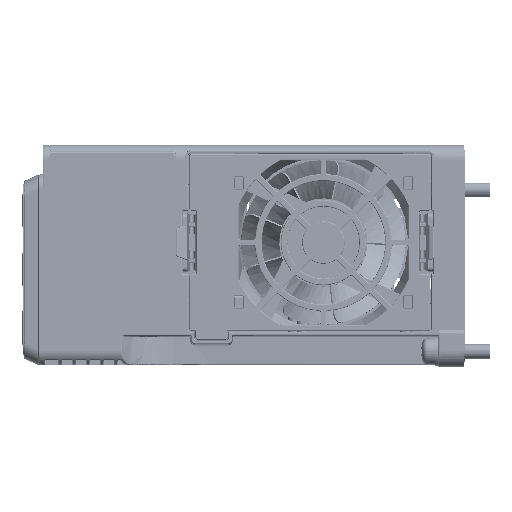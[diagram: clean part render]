
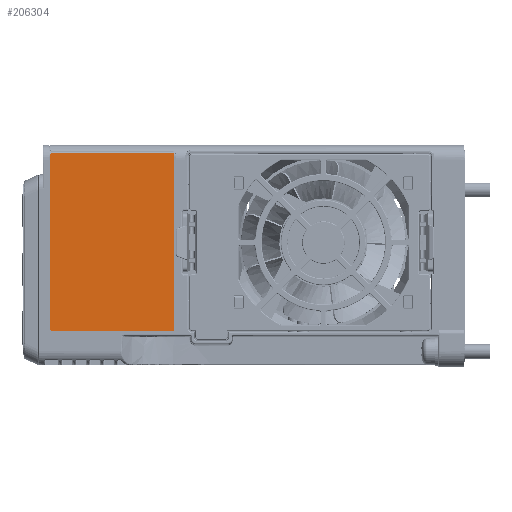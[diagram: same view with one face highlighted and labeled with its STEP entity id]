
A CAD part, left-side view. The second image highlights one B-rep face of the part: STEP entity #206304.
In plain terms, the highlighted planar face has unit normal (-1, 0, 0).
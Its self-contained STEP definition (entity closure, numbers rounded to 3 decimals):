
#12292=CIRCLE('',#222339,0.5);
#12293=CIRCLE('',#222341,0.5);
#12294=CIRCLE('',#222342,0.5);
#12295=CIRCLE('',#222343,0.5);
#23680=FACE_OUTER_BOUND('',#35821,.T.);
#35821=EDGE_LOOP('',(#165460,#165461,#165462,#165463,#165464,#165465,#165466,
#165467));
#53525=LINE('',#391138,#75606);
#53528=LINE('',#391147,#75609);
#53529=LINE('',#391151,#75610);
#53530=LINE('',#391154,#75611);
#75606=VECTOR('',#257959,59.535);
#75609=VECTOR('',#257968,59.535);
#75610=VECTOR('',#257971,41.2);
#75611=VECTOR('',#257974,41.2);
#96714=VERTEX_POINT('',#391135);
#96715=VERTEX_POINT('',#391137);
#96716=VERTEX_POINT('',#391141);
#96717=VERTEX_POINT('',#391145);
#96718=VERTEX_POINT('',#391146);
#96719=VERTEX_POINT('',#391148);
#96720=VERTEX_POINT('',#391150);
#96721=VERTEX_POINT('',#391153);
#121138=EDGE_CURVE('',#96714,#96715,#53525,.T.);
#121141=EDGE_CURVE('',#96716,#96714,#12292,.T.);
#121142=EDGE_CURVE('',#96717,#96718,#53528,.T.);
#121143=EDGE_CURVE('',#96719,#96717,#12293,.T.);
#121144=EDGE_CURVE('',#96720,#96719,#53529,.T.);
#121145=EDGE_CURVE('',#96715,#96720,#12294,.T.);
#121146=EDGE_CURVE('',#96721,#96716,#53530,.T.);
#121147=EDGE_CURVE('',#96718,#96721,#12295,.T.);
#165460=ORIENTED_EDGE('',*,*,#121142,.F.);
#165461=ORIENTED_EDGE('',*,*,#121143,.F.);
#165462=ORIENTED_EDGE('',*,*,#121144,.F.);
#165463=ORIENTED_EDGE('',*,*,#121145,.F.);
#165464=ORIENTED_EDGE('',*,*,#121138,.F.);
#165465=ORIENTED_EDGE('',*,*,#121141,.F.);
#165466=ORIENTED_EDGE('',*,*,#121146,.F.);
#165467=ORIENTED_EDGE('',*,*,#121147,.F.);
#196950=PLANE('',#222340);
#206304=ADVANCED_FACE('',(#23680),#196950,.T.);
#222339=AXIS2_PLACEMENT_3D('',#391143,#257964,#257965);
#222340=AXIS2_PLACEMENT_3D('',#391144,#257966,#257967);
#222341=AXIS2_PLACEMENT_3D('',#391149,#257969,#257970);
#222342=AXIS2_PLACEMENT_3D('',#391152,#257972,#257973);
#222343=AXIS2_PLACEMENT_3D('',#391155,#257975,#257976);
#257959=DIRECTION('',(0.,0.,-1.));
#257964=DIRECTION('center_axis',(1.,0.,0.));
#257965=DIRECTION('ref_axis',(0.,0.,1.));
#257966=DIRECTION('center_axis',(-1.,0.,0.));
#257967=DIRECTION('ref_axis',(0.,0.,1.));
#257968=DIRECTION('',(0.,0.,1.));
#257969=DIRECTION('center_axis',(1.,0.,0.));
#257970=DIRECTION('ref_axis',(0.,0.,-1.));
#257971=DIRECTION('',(0.,1.,0.));
#257972=DIRECTION('center_axis',(1.,0.,0.));
#257973=DIRECTION('ref_axis',(0.,-1.,0.));
#257974=DIRECTION('',(0.,-1.,0.));
#257975=DIRECTION('center_axis',(1.,0.,0.));
#257976=DIRECTION('ref_axis',(0.,1.,0.));
#391135=CARTESIAN_POINT('',(-102.2,23.8,34.185));
#391137=CARTESIAN_POINT('',(-102.2,23.8,-25.35));
#391138=CARTESIAN_POINT('',(-102.2,23.8,34.185));
#391141=CARTESIAN_POINT('',(-102.2,24.3,34.685));
#391143=CARTESIAN_POINT('Origin',(-102.2,24.3,34.185));
#391144=CARTESIAN_POINT('Origin',(-102.2,-75.,0.));
#391145=CARTESIAN_POINT('',(-102.2,66.,-25.35));
#391146=CARTESIAN_POINT('',(-102.2,66.,34.185));
#391147=CARTESIAN_POINT('',(-102.2,66.,-25.35));
#391148=CARTESIAN_POINT('',(-102.2,65.5,-25.85));
#391149=CARTESIAN_POINT('Origin',(-102.2,65.5,-25.35));
#391150=CARTESIAN_POINT('',(-102.2,24.3,-25.85));
#391151=CARTESIAN_POINT('',(-102.2,24.3,-25.85));
#391152=CARTESIAN_POINT('Origin',(-102.2,24.3,-25.35));
#391153=CARTESIAN_POINT('',(-102.2,65.5,34.685));
#391154=CARTESIAN_POINT('',(-102.2,65.5,34.685));
#391155=CARTESIAN_POINT('Origin',(-102.2,65.5,34.185));
